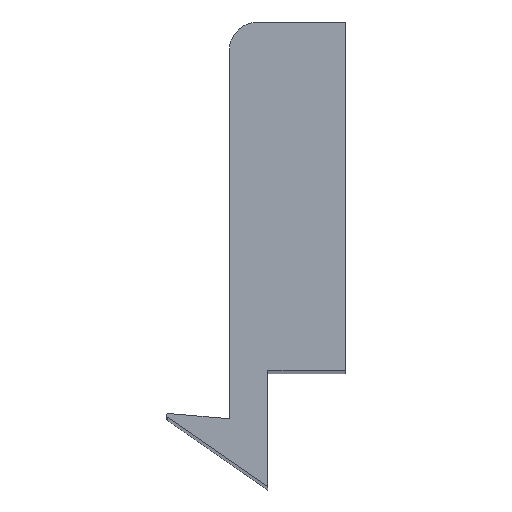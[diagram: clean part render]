
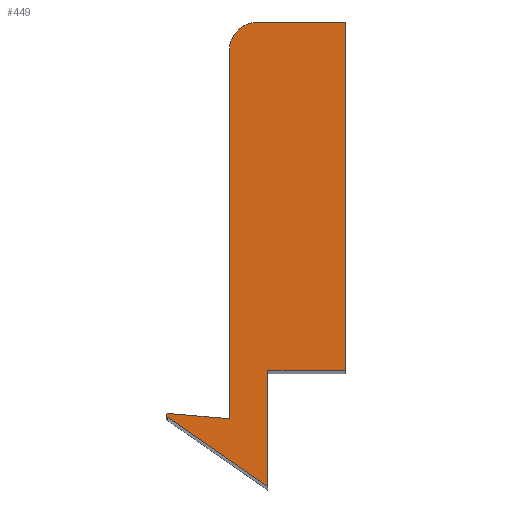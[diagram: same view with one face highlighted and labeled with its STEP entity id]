
A CAD part, top view. The second image highlights one B-rep face of the part: STEP entity #449.
In plain terms, the highlighted planar face has unit normal (0, 0, 1).
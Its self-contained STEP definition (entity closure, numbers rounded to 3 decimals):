
#17 = ORIENTED_EDGE ( 'NONE', *, *, #159, .T. ) ;
#19 = ORIENTED_EDGE ( 'NONE', *, *, #203, .T. ) ;
#36 = ORIENTED_EDGE ( 'NONE', *, *, #232, .T. ) ;
#40 = VERTEX_POINT ( 'NONE', #434 ) ;
#43 = DIRECTION ( 'NONE',  ( 0., 1., 0. ) ) ;
#45 = CARTESIAN_POINT ( 'NONE',  ( -9.124, -2.227, 51.5 ) ) ;
#56 = AXIS2_PLACEMENT_3D ( 'NONE', #271, #448, #130 ) ;
#71 = CARTESIAN_POINT ( 'NONE',  ( -4., 0., 51.5 ) ) ;
#73 = AXIS2_PLACEMENT_3D ( 'NONE', #185, #139, #250 ) ;
#75 = DIRECTION ( 'NONE',  ( 1., 0., 0. ) ) ;
#76 = CARTESIAN_POINT ( 'NONE',  ( -6., -2.5, 51.5 ) ) ;
#78 = LINE ( 'NONE', #300, #435 ) ;
#82 = CIRCLE ( 'NONE', #73, 1.5 ) ;
#83 = VERTEX_POINT ( 'NONE', #76 ) ;
#93 = LINE ( 'NONE', #460, #342 ) ;
#105 = ORIENTED_EDGE ( 'NONE', *, *, #195, .T. ) ;
#115 = EDGE_CURVE ( 'NONE', #83, #337, #193, .T. ) ;
#117 = DIRECTION ( 'NONE',  ( 1., 0., 0. ) ) ;
#123 = VERTEX_POINT ( 'NONE', #252 ) ;
#127 = ORIENTED_EDGE ( 'NONE', *, *, #144, .T. ) ;
#130 = DIRECTION ( 'NONE',  ( 1., 0., 0. ) ) ;
#136 = CARTESIAN_POINT ( 'NONE',  ( 0., 0., 51.5 ) ) ;
#139 = DIRECTION ( 'NONE',  ( 0., 0., 1. ) ) ;
#141 = DIRECTION ( 'NONE',  ( 0.822, -0.569, 0. ) ) ;
#142 = VERTEX_POINT ( 'NONE', #355 ) ;
#143 = LINE ( 'NONE', #136, #145 ) ;
#144 = EDGE_CURVE ( 'NONE', #216, #142, #143, .T. ) ;
#145 = VECTOR ( 'NONE', #284, 1000. ) ;
#153 = CARTESIAN_POINT ( 'NONE',  ( -4., -6., 51.5 ) ) ;
#159 = EDGE_CURVE ( 'NONE', #245, #407, #82, .T. ) ;
#174 = AXIS2_PLACEMENT_3D ( 'NONE', #292, #408, #117 ) ;
#177 = VECTOR ( 'NONE', #318, 1000. ) ;
#178 = CARTESIAN_POINT ( 'NONE',  ( -6., 18., 51.5 ) ) ;
#180 = EDGE_LOOP ( 'NONE', ( #36, #17, #105, #201, #286, #19, #463, #440, #127 ) ) ;
#185 = CARTESIAN_POINT ( 'NONE',  ( -4.5, 16.5, 51.5 ) ) ;
#190 = VECTOR ( 'NONE', #43, 1000. ) ;
#193 = LINE ( 'NONE', #334, #312 ) ;
#195 = EDGE_CURVE ( 'NONE', #407, #83, #277, .T. ) ;
#201 = ORIENTED_EDGE ( 'NONE', *, *, #115, .T. ) ;
#203 = EDGE_CURVE ( 'NONE', #123, #40, #93, .T. ) ;
#205 = CARTESIAN_POINT ( 'NONE',  ( -6., 16.5, 51.5 ) ) ;
#213 = CIRCLE ( 'NONE', #174, 0.1 ) ;
#216 = VERTEX_POINT ( 'NONE', #391 ) ;
#223 = LINE ( 'NONE', #231, #354 ) ;
#231 = CARTESIAN_POINT ( 'NONE',  ( 0., 18., 51.5 ) ) ;
#232 = EDGE_CURVE ( 'NONE', #142, #245, #223, .T. ) ;
#236 = EDGE_CURVE ( 'NONE', #337, #123, #213, .T. ) ;
#245 = VERTEX_POINT ( 'NONE', #436 ) ;
#250 = DIRECTION ( 'NONE',  ( 1., 0., 0. ) ) ;
#252 = CARTESIAN_POINT ( 'NONE',  ( -9.19, -2.409, 51.5 ) ) ;
#255 = EDGE_CURVE ( 'NONE', #321, #216, #78, .T. ) ;
#271 = CARTESIAN_POINT ( 'NONE',  ( 0., 0., 51.5 ) ) ;
#277 = LINE ( 'NONE', #178, #177 ) ;
#284 = DIRECTION ( 'NONE',  ( 0., 1., 0. ) ) ;
#286 = ORIENTED_EDGE ( 'NONE', *, *, #236, .T. ) ;
#292 = CARTESIAN_POINT ( 'NONE',  ( -9.133, -2.326, 51.5 ) ) ;
#300 = CARTESIAN_POINT ( 'NONE',  ( -4., 0., 51.5 ) ) ;
#302 = LINE ( 'NONE', #153, #190 ) ;
#306 = PLANE ( 'NONE',  #56 ) ;
#312 = VECTOR ( 'NONE', #324, 1000. ) ;
#318 = DIRECTION ( 'NONE',  ( 0., -1., 0. ) ) ;
#321 = VERTEX_POINT ( 'NONE', #71 ) ;
#324 = DIRECTION ( 'NONE',  ( -0.996, 0.087, 0. ) ) ;
#334 = CARTESIAN_POINT ( 'NONE',  ( -6., -2.5, 51.5 ) ) ;
#336 = DIRECTION ( 'NONE',  ( -1., 0., 0. ) ) ;
#337 = VERTEX_POINT ( 'NONE', #45 ) ;
#339 = FACE_OUTER_BOUND ( 'NONE', #180, .T. ) ;
#342 = VECTOR ( 'NONE', #141, 1000. ) ;
#348 = EDGE_CURVE ( 'NONE', #40, #321, #302, .T. ) ;
#354 = VECTOR ( 'NONE', #336, 1000. ) ;
#355 = CARTESIAN_POINT ( 'NONE',  ( 0., 18., 51.5 ) ) ;
#391 = CARTESIAN_POINT ( 'NONE',  ( 0., 0., 51.5 ) ) ;
#407 = VERTEX_POINT ( 'NONE', #205 ) ;
#408 = DIRECTION ( 'NONE',  ( 0., 0., 1. ) ) ;
#434 = CARTESIAN_POINT ( 'NONE',  ( -4., -6., 51.5 ) ) ;
#435 = VECTOR ( 'NONE', #75, 1000. ) ;
#436 = CARTESIAN_POINT ( 'NONE',  ( -4.5, 18., 51.5 ) ) ;
#440 = ORIENTED_EDGE ( 'NONE', *, *, #255, .T. ) ;
#448 = DIRECTION ( 'NONE',  ( 0., 0., 1. ) ) ;
#449 = ADVANCED_FACE ( 'NONE', ( #339 ), #306, .T. ) ;
#460 = CARTESIAN_POINT ( 'NONE',  ( -9.5, -2.194, 51.5 ) ) ;
#463 = ORIENTED_EDGE ( 'NONE', *, *, #348, .T. ) ;
